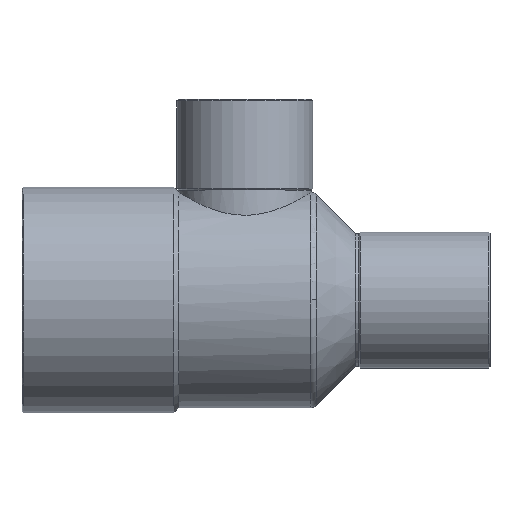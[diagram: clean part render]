
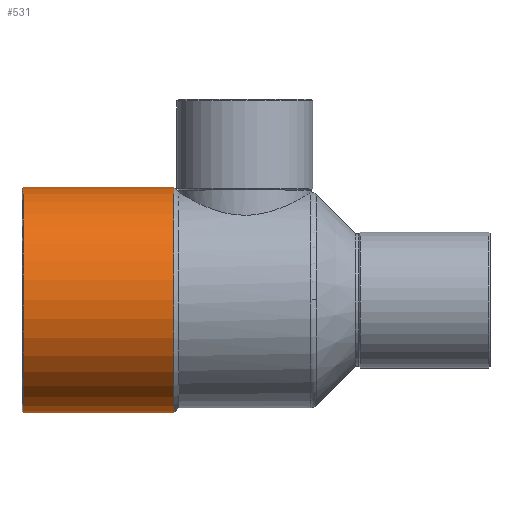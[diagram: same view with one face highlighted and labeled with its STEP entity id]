
A CAD part, top view. The second image highlights one B-rep face of the part: STEP entity #531.
In plain terms, the highlighted cylindrical face has radius 15.16 mm (diameter 30.32 mm), a partial arc.
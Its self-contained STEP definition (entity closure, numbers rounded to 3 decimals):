
#337=CARTESIAN_POINT('',(-9.544,15.16,0.0));
#338=VERTEX_POINT('',#337);
#347=CARTESIAN_POINT('',(-9.544,-15.16,0.));
#348=VERTEX_POINT('',#347);
#349=CARTESIAN_POINT('',(-9.544,0.0,0.0));
#350=DIRECTION('',(1.0,0.0,0.0));
#351=DIRECTION('',(0.0,1.0,0.0));
#352=AXIS2_PLACEMENT_3D('',#349,#350,#351);
#353=CIRCLE('',#352,15.16);
#354=EDGE_CURVE('',#338,#348,#353,.T.);
#500=CARTESIAN_POINT('',(-19.772,0.0,0.0));
#501=DIRECTION('',(1.0,0.0,0.0));
#502=DIRECTION('',(0.0,1.0,0.0));
#503=AXIS2_PLACEMENT_3D('',#500,#501,#502);
#504=CYLINDRICAL_SURFACE('',#503,15.16);
#505=CARTESIAN_POINT('',(-29.8,15.16,0.));
#506=VERTEX_POINT('',#505);
#507=CARTESIAN_POINT('',(-29.8,15.16,0.));
#508=DIRECTION('',(1.0,0.0,0.0));
#509=VECTOR('',#508,20.256);
#510=LINE('',#507,#509);
#511=EDGE_CURVE('',#506,#338,#510,.T.);
#512=ORIENTED_EDGE('',*,*,#511,.F.);
#513=CARTESIAN_POINT('',(-29.8,-15.16,0.));
#514=VERTEX_POINT('',#513);
#515=CARTESIAN_POINT('',(-29.8,0.0,0.0));
#516=DIRECTION('',(-1.0,0.0,0.0));
#517=DIRECTION('',(0.0,-1.0,0.0));
#518=AXIS2_PLACEMENT_3D('',#515,#516,#517);
#519=CIRCLE('',#518,15.16);
#520=EDGE_CURVE('',#514,#506,#519,.T.);
#521=ORIENTED_EDGE('',*,*,#520,.F.);
#522=CARTESIAN_POINT('',(-9.544,-15.16,0.));
#523=DIRECTION('',(-1.0,0.0,0.0));
#524=VECTOR('',#523,20.256);
#525=LINE('',#522,#524);
#526=EDGE_CURVE('',#348,#514,#525,.T.);
#527=ORIENTED_EDGE('',*,*,#526,.F.);
#528=ORIENTED_EDGE('',*,*,#354,.F.);
#529=EDGE_LOOP('',(#512,#521,#527,#528));
#530=FACE_OUTER_BOUND('',#529,.T.);
#531=ADVANCED_FACE('',(#530),#504,.T.);
